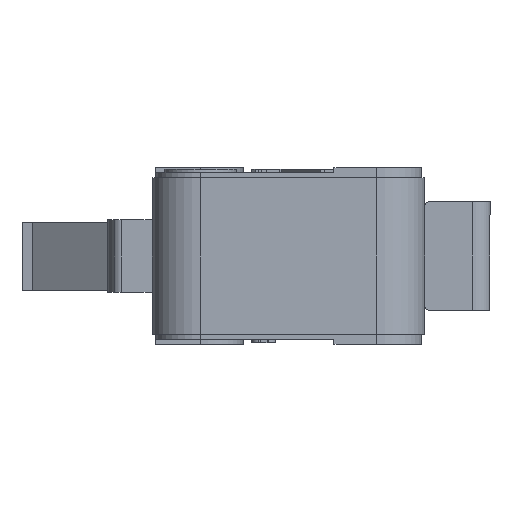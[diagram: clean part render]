
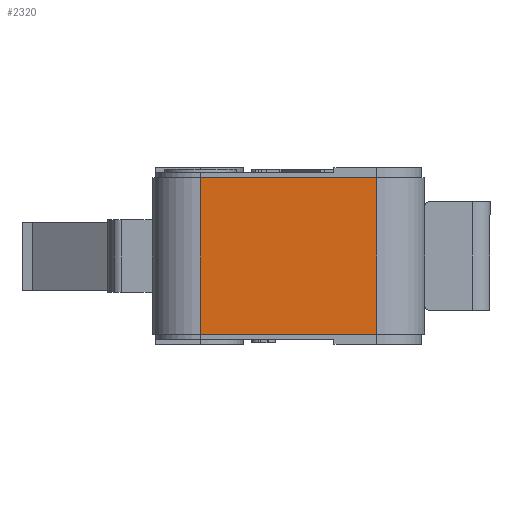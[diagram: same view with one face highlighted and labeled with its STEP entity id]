
A CAD part, left-side view. The second image highlights one B-rep face of the part: STEP entity #2320.
In plain terms, the highlighted planar face has unit normal (-1, 0, 0).
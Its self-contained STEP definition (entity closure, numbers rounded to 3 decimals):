
#2262=CARTESIAN_POINT('',(-13.9,5.15,-4.55));
#2263=VERTEX_POINT('',#2262);
#2264=CARTESIAN_POINT('',(-13.9,5.15,4.55));
#2265=VERTEX_POINT('',#2264);
#2266=CARTESIAN_POINT('',(-13.9,5.15,-4.55));
#2267=DIRECTION('',(0.0,0.0,1.0));
#2268=VECTOR('',#2267,9.1);
#2269=LINE('',#2266,#2268);
#2270=EDGE_CURVE('',#2263,#2265,#2269,.T.);
#2290=CARTESIAN_POINT('',(-13.9,-5.15,-4.55));
#2291=DIRECTION('',(-1.0,0.0,0.0));
#2292=DIRECTION('',(0.0,0.0,1.0));
#2293=AXIS2_PLACEMENT_3D('',#2290,#2291,#2292);
#2294=PLANE('',#2293);
#2295=CARTESIAN_POINT('',(-13.9,-5.15,4.55));
#2296=VERTEX_POINT('',#2295);
#2297=CARTESIAN_POINT('',(-13.9,-5.15,4.55));
#2298=DIRECTION('',(0.0,1.0,0.0));
#2299=VECTOR('',#2298,10.3);
#2300=LINE('',#2297,#2299);
#2301=EDGE_CURVE('',#2296,#2265,#2300,.T.);
#2302=ORIENTED_EDGE('',*,*,#2301,.T.);
#2303=ORIENTED_EDGE('',*,*,#2270,.F.);
#2304=CARTESIAN_POINT('',(-13.9,-5.15,-4.55));
#2305=VERTEX_POINT('',#2304);
#2306=CARTESIAN_POINT('',(-13.9,5.15,-4.55));
#2307=DIRECTION('',(0.0,-1.0,0.0));
#2308=VECTOR('',#2307,10.3);
#2309=LINE('',#2306,#2308);
#2310=EDGE_CURVE('',#2263,#2305,#2309,.T.);
#2311=ORIENTED_EDGE('',*,*,#2310,.T.);
#2312=CARTESIAN_POINT('',(-13.9,-5.15,-4.55));
#2313=DIRECTION('',(0.0,0.0,1.0));
#2314=VECTOR('',#2313,9.1);
#2315=LINE('',#2312,#2314);
#2316=EDGE_CURVE('',#2305,#2296,#2315,.T.);
#2317=ORIENTED_EDGE('',*,*,#2316,.T.);
#2318=EDGE_LOOP('',(#2302,#2303,#2311,#2317));
#2319=FACE_OUTER_BOUND('',#2318,.T.);
#2320=ADVANCED_FACE('',(#2319),#2294,.T.);
